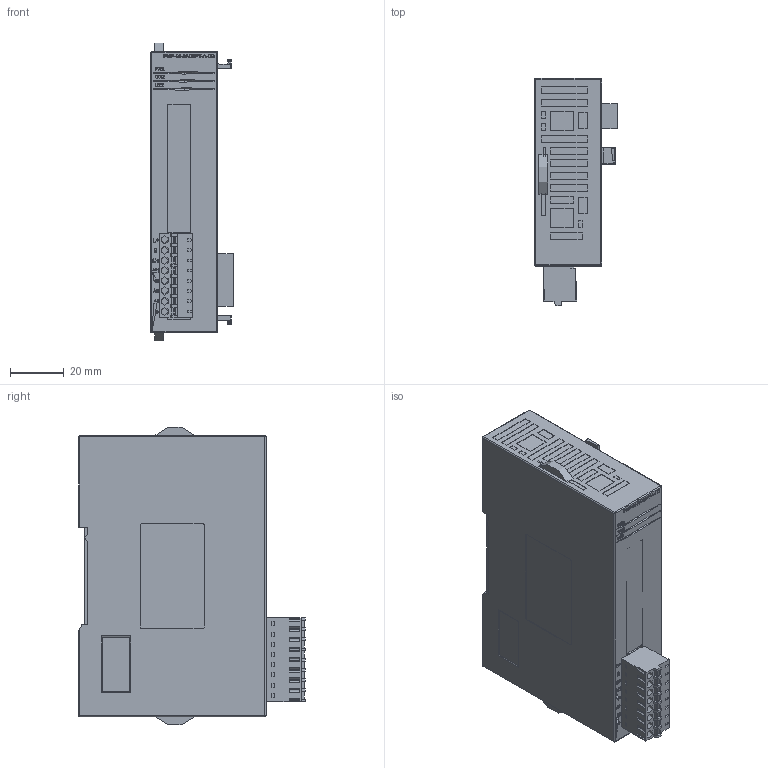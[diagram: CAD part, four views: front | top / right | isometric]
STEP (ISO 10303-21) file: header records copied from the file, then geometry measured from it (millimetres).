
FILE_DESCRIPTION(('STEP AP242'), '1');
FILE_NAME('PMP-01-2AD2PT-A-ED', '', ('UNSPECIFIED'), ('UNSPECIFIED'), 'C3D Converter', 'C3D Toolkit', '');
FILE_SCHEMA(('AP242_MANAGED_MODEL_BASED_3D_ENGINEERING_MIM_LF { 1 0 10303 442 1 1 4 }'));
Length unit declared in the file: millimetre
Products named in the file (1): PMP-01-2AD2PT-A-ED
Bounding box: 30.8 x 84.71 x 110.91 mm (x, y, z)
Surface area: 29153.7 mm2
Topology: 18 solids, 35 shells, 1355 faces, 3630 edges, 2422 vertices
Faces by surface type: plane 990, bspline 148, extrusion 131, cylinder 86
Full cylindrical faces by diameter (mm): 3 x8
Entity records: 65602 total; most frequent: CARTESIAN_POINT 22221, ORIENTED_EDGE 7138, DIRECTION 5410, EDGE_CURVE 3621, VECTOR 2830, LINE 2699, VERTEX_POINT 2422, EDGE_LOOP 1519
